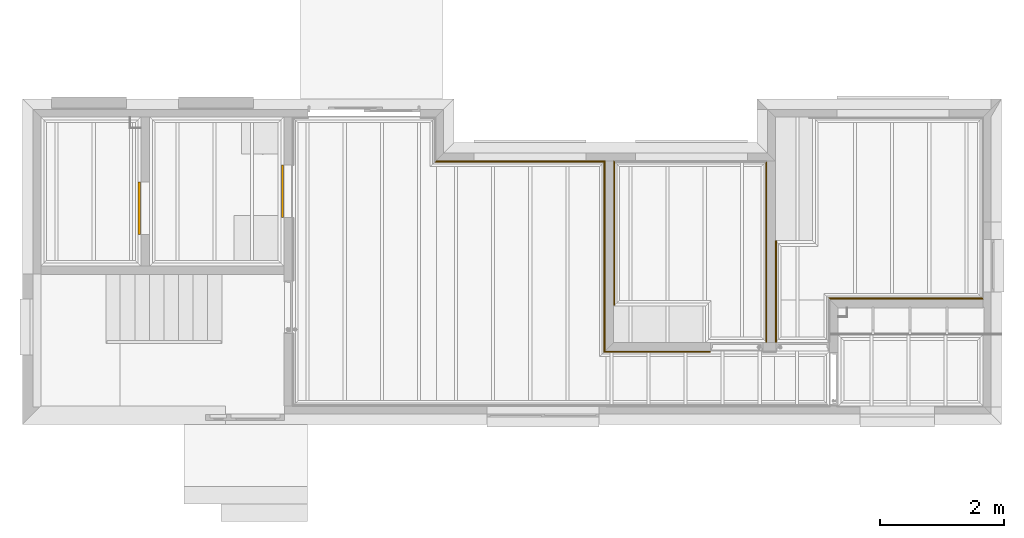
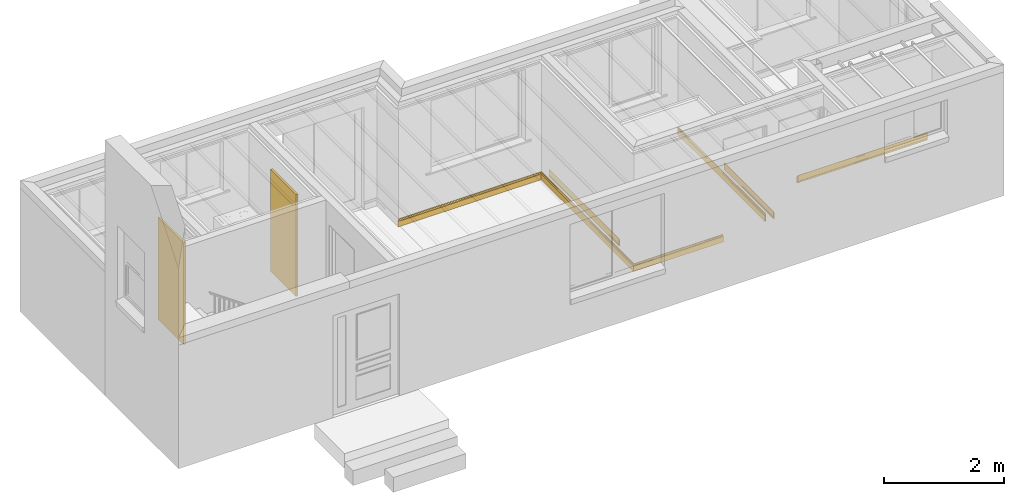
# One storey, part 4 of 15: 7 coverings, 2 doors.
"""IFC2X3 building model written with IfcOpenShell, lengths in millimetres."""

from ifc_helpers import new_model, entity, si_unit, converted_unit, money_unit, direction, frame, origin_with_axes, place, context, subcontext, project, spatial, faceted_brep, source, transform, mapped, material, material_list, type_object, element, save


model = new_model("IFC2X3")

# Units and contexts
model_context = context("Model", 3, precision=1e-05, world=origin_with_axes(), true_north=direction((0.0, 1.0)))
body_context = subcontext(model_context, "Body", "Model", "MODEL_VIEW")
ifc_project = project(units=[si_unit("LENGTHUNIT", "METRE", prefix="MILLI"), si_unit("AREAUNIT", "SQUARE_METRE"), si_unit("VOLUMEUNIT", "CUBIC_METRE"), converted_unit("PLANEANGLEUNIT", "DEGREE", entity("IfcPlaneAngleMeasure", 0.0174532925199), si_unit("PLANEANGLEUNIT", "RADIAN"), dimensions=[0, 0, 0, 0, 0, 0, 0]), si_unit("SOLIDANGLEUNIT", "STERADIAN"), money_unit("AUD"), si_unit("TIMEUNIT", "SECOND"), si_unit("MASSUNIT", "GRAM"), si_unit("THERMODYNAMICTEMPERATUREUNIT", "DEGREE_CELSIUS"), si_unit("LUMINOUSINTENSITYUNIT", "LUMEN")], contexts=[model_context])

# Site, building, storey
site_placement = place(None, origin_with_axes())
site = spatial("IfcSite", under=ifc_project, at=site_placement, Name="Lot 1. East Hills", CompositionType="ELEMENT")
building_placement = place(site_placement, origin_with_axes())
building = spatial("IfcBuilding", under=site, at=building_placement, Name="Proposed Units 7 & 8", CompositionType="ELEMENT")
storey_placement = place(building_placement, frame((0.0, 0.0, 3202.0), z_axis=(0.0, 0.0, 1.0), x_axis=(1.0, 0.0, 0.0)))
storey = spatial("IfcBuildingStorey", under=building, at=storey_placement, Name="Ground", CompositionType="ELEMENT", Elevation=3202.0)

# Doors
ifc_material_1 = material(Name="Empty Fill")
ifc_material_list = material_list([ifc_material_1, ifc_material_1, ifc_material_1, ifc_material_1, ifc_material_1, ifc_material_1, ifc_material_1, ifc_material_1, ifc_material_1])
door_style_1 = type_object("IfcDoorStyle", Name="D1 Sliding Ext 11", ConstructionType="NOTDEFINED", OperationType="SLIDING_TO_LEFT", ParameterTakesPrecedence=False, Sizeable=False)
shared_shape_1 = source(origin_with_axes(), body_context, "Body", "Brep", [
    faceted_brep([(-425.0, 40.0, 0.0), (425.0, 40.0, 0.0), (425.0, 5.0, 0.0), (-425.0, 5.0, 0.0), (-425.0, 40.0, 2067.0), (425.0, 40.0, 2067.0), (425.0, 5.0, 2067.0), (-425.0, 5.0, 2067.0)], [[[0, 1, 2, 3]], [[0, 4, 5, 1]], [[1, 5, 6, 2]], [[3, 2, 6, 7]], [[4, 0, 3, 7]], [[5, 4, 7, 6]]]),
])
door_1_placement = place(storey_placement, frame((4225.0144277, 3342.99999352, 0.0), z_axis=(0.0, 0.0, 1.0), x_axis=(-7.51477654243e-06, 0.999999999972, 0.0)))
element("IfcDoor", 1, at=door_1_placement, inside=storey, type_object=door_style_1, material=ifc_material_list, Name="4 D1 Sliding Ext 11 0.85 x 2.067 x 1 Door", OverallHeight=2067.0, OverallWidth=850.0, context=body_context, shape_type="MappedRepresentation", body=[
    mapped(shared_shape_1, transform((425.0, 0.0, 0.0))),
])
door_style_2 = type_object("IfcDoorStyle", Name="D1 Sliding Ext 11", ConstructionType="NOTDEFINED", OperationType="SLIDING_TO_RIGHT", ParameterTakesPrecedence=False, Sizeable=False)
shared_shape_2 = source(origin_with_axes(), body_context, "Body", "Brep", [
    faceted_brep([(425.0, 45.0, 0.0), (425.0, 5.0, 0.0), (-425.0, 5.0, 0.0), (-425.0, 45.0, 0.0), (425.0, 45.0, 2067.0), (425.0, 5.0, 2067.0), (-425.0, 5.0, 2067.0), (-425.0, 45.0, 2067.0)], [[[0, 1, 2, 3]], [[4, 5, 1, 0]], [[1, 5, 6, 2]], [[3, 2, 6, 7]], [[0, 3, 7, 4]], [[7, 6, 5, 4]]]),
])
door_2_placement = place(storey_placement, frame((1915.0, 3068.12822008, 0.0), z_axis=(0.0, 0.0, 1.0), x_axis=(0.0, 1.0, 0.0)))
element("IfcDoor", 2, at=door_2_placement, inside=storey, type_object=door_style_2, material=ifc_material_list, Name="3 D1 Sliding Ext 11 0.85 x 2.067 x 1 Door", OverallHeight=2067.0, OverallWidth=850.0, context=body_context, shape_type="MappedRepresentation", body=[
    mapped(shared_shape_2, transform((425.0, 0.0, 0.0))),
])

# Coverings
ifc_material_2 = material(Name="50 %")
covering_type = type_object("IfcCoveringType", Name="Molding Straight 12", PredefinedType="NOTDEFINED")
shared_shape_3 = source(origin_with_axes(), body_context, "Body", "Brep", [
    faceted_brep([(2720.97014761, -19.0298507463, -150.0), (2720.97014761, -19.0298507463, -40.2985074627), (-19.0298507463, -19.0298507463, -40.2985074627), (-19.0298507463, -19.0298507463, -150.0), (2739.99999836, 0.0, -150.0), (2739.99999836, 0.0, -120.895522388), (2737.76119239, -2.23880597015, -118.656716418), (2737.76119239, -2.23880597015, -24.6268656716), (2739.99999836, 0.0, -22.3880597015), (2739.99999836, 0.0, 0.0), (2733.28358045, -6.71641791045, 0.0), (2731.04477448, -8.9552238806, -4.4776119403), (2730.80802769, -9.19197067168, -5.17383533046), (2730.76683928, -9.23315907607, -5.90805571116), (2730.92423203, -9.07576633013, -6.62638959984), (2731.26865508, -8.73134328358, -7.27611940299), (2731.82878532, -8.1712130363, -8.36014699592), (2732.05223717, -7.94776119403, -9.55970149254), (2731.75146155, -8.2485368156, -12.6066468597), (2730.6421092, -9.35788915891, -15.4603601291), (2728.80596851, -11.1940298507, -17.9104477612), (2724.37880085, -15.6211975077, -24.0923863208), (2722.0895506, -17.9104477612, -31.3432835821), (2722.07427768, -17.9257206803, -33.6342255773), (2722.69852028, -17.3014780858, -35.8385326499), (2723.91274409, -16.087254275, -37.7812907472), (2725.62059919, -14.3793991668, -39.3083399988), (2727.68656553, -12.3134328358, -40.2985074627), (-12.3134328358, -12.3134328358, -40.2985074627), (-14.3793991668, -14.3793991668, -39.3083399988), (-16.087254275, -16.087254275, -37.7812907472), (-17.3014780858, -17.3014780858, -35.8385326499), (-17.9257206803, -17.9257206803, -33.6342255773), (-17.9104477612, -17.9104477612, -31.3432835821), (-15.6211975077, -15.6211975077, -24.0923863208), (-11.1940298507, -11.1940298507, -17.9104477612), (-9.35788915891, -9.35788915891, -15.4603601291), (-8.2485368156, -8.2485368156, -12.6066468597), (-7.94776119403, -7.94776119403, -9.55970149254), (-8.17121303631, -8.1712130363, -8.36014699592), (-8.73134328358, -8.73134328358, -7.27611940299), (-9.07576633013, -9.07576633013, -6.62638959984), (-9.23315907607, -9.23315907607, -5.90805571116), (-9.19197067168, -9.19197067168, -5.17383533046), (-8.9552238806, -8.9552238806, -4.4776119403), (-6.71641791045, -6.71641791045, 0.0), (0.0, 0.0, 0.0), (0.0, 0.0, -22.3880597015), (-2.23880597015, -2.23880597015, -24.6268656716), (-2.23880597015, -2.23880597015, -118.656716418), (0.0, 0.0, -120.895522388), (0.0, 0.0, -150.0)], [[[0, 1, 2, 3]], [[0, 4, 5, 6, 7, 8, 9, 10, 11, 12, 13, 14, 15, 16, 17, 18, 19, 20, 21, 22, 23, 24, 25, 26, 27, 1]], [[1, 27, 28, 2]], [[3, 2, 28, 29, 30, 31, 32, 33, 34, 35, 36, 37, 38, 39, 40, 41, 42, 43, 44, 45, 46, 47, 48, 49, 50, 51]], [[4, 0, 3, 51]], [[5, 4, 51, 50]], [[6, 5, 50, 49]], [[7, 6, 49, 48]], [[8, 7, 48, 47]], [[9, 8, 47, 46]], [[10, 9, 46, 45]], [[11, 10, 45, 44]], [[12, 11, 44, 43]], [[13, 12, 43, 42]], [[14, 13, 42, 41]], [[15, 14, 41, 40]], [[16, 15, 40, 39]], [[17, 16, 39, 38]], [[18, 17, 38, 37]], [[19, 18, 37, 36]], [[20, 19, 36, 35]], [[21, 20, 35, 34]], [[22, 21, 34, 33]], [[23, 22, 33, 32]], [[24, 23, 32, 31]], [[25, 24, 31, 30]], [[26, 25, 30, 29]], [[27, 26, 29, 28]]]),
])
covering_1_placement = place(storey_placement, frame((6680.00000119, 4258.00000119, 150.0), z_axis=(0.0, 0.0, 1.0), x_axis=(1.0, 0.0, 0.0)))
element("IfcCovering", 3, at=covering_1_placement, inside=storey, type_object=covering_type, material=ifc_material_2, Name="Sk_01 - Molding Straight 12 - object -", PredefinedType="NOTDEFINED", context=body_context, shape_type="MappedRepresentation", body=[
    mapped(shared_shape_3, transform((0.0, 0.0, 0.0))),
])
shared_shape_4 = source(origin_with_axes(), body_context, "Body", "Brep", [
    faceted_brep([(3094.02985149, -19.0298507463, -150.0), (3094.02985149, -19.0298507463, -40.2985074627), (19.0298507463, -19.0298507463, -40.2985074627), (19.0298507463, -19.0298507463, -150.0), (3075.00000075, 0.0, -150.0), (3075.00000075, 0.0, -120.895522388), (3077.23880672, -2.23880597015, -118.656716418), (3077.23880672, -2.23880597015, -24.6268656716), (3075.00000075, 0.0, -22.3880597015), (3075.00000075, 0.0, 0.0), (3081.71641866, -6.71641791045, 0.0), (3083.95522463, -8.9552238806, -4.4776119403), (3084.19197142, -9.19197067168, -5.17383533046), (3084.23315982, -9.23315907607, -5.90805571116), (3084.07576708, -9.07576633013, -6.62638959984), (3083.73134403, -8.73134328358, -7.27611940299), (3083.17121378, -8.1712130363, -8.36014699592), (3082.94776194, -7.94776119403, -9.55970149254), (3083.24853756, -8.2485368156, -12.6066468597), (3084.3578899, -9.35788915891, -15.4603601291), (3086.1940306, -11.1940298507, -17.9104477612), (3090.62119825, -15.6211975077, -24.0923863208), (3092.91044851, -17.9104477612, -31.3432835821), (3092.92572143, -17.9257206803, -33.6342255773), (3092.30147883, -17.3014780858, -35.8385326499), (3091.08725502, -16.087254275, -37.7812907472), (3089.37939991, -14.3793991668, -39.3083399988), (3087.31343358, -12.3134328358, -40.2985074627), (12.3134328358, -12.3134328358, -40.2985074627), (14.3793991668, -14.3793991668, -39.3083399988), (16.087254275, -16.087254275, -37.7812907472), (17.3014780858, -17.3014780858, -35.8385326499), (17.9257206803, -17.9257206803, -33.6342255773), (17.9104477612, -17.9104477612, -31.3432835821), (15.6211975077, -15.6211975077, -24.0923863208), (11.1940298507, -11.1940298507, -17.9104477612), (9.35788915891, -9.35788915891, -15.4603601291), (8.2485368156, -8.2485368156, -12.6066468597), (7.94776119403, -7.94776119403, -9.55970149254), (8.1712130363, -8.1712130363, -8.36014699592), (8.73134328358, -8.73134328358, -7.27611940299), (9.07576633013, -9.07576633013, -6.62638959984), (9.23315907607, -9.23315907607, -5.90805571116), (9.19197067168, -9.19197067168, -5.17383533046), (8.9552238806, -8.9552238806, -4.4776119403), (6.71641791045, -6.71641791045, 0.0), (0.0, 0.0, 0.0), (0.0, 0.0, -22.3880597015), (2.23880597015, -2.23880597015, -24.6268656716), (2.23880597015, -2.23880597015, -118.656716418), (0.0, 0.0, -120.895522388), (0.0, 0.0, -150.0)], [[[0, 1, 2, 3]], [[0, 4, 5, 6, 7, 8, 9, 10, 11, 12, 13, 14, 15, 16, 17, 18, 19, 20, 21, 22, 23, 24, 25, 26, 27, 1]], [[1, 27, 28, 2]], [[3, 2, 28, 29, 30, 31, 32, 33, 34, 35, 36, 37, 38, 39, 40, 41, 42, 43, 44, 45, 46, 47, 48, 49, 50, 51]], [[4, 0, 3, 51]], [[5, 4, 51, 50]], [[6, 5, 50, 49]], [[7, 6, 49, 48]], [[8, 7, 48, 47]], [[9, 8, 47, 46]], [[10, 9, 46, 45]], [[11, 10, 45, 44]], [[12, 11, 44, 43]], [[13, 12, 43, 42]], [[14, 13, 42, 41]], [[15, 14, 41, 40]], [[16, 15, 40, 39]], [[17, 16, 39, 38]], [[18, 17, 38, 37]], [[19, 18, 37, 36]], [[20, 19, 36, 35]], [[21, 20, 35, 34]], [[22, 21, 34, 33]], [[23, 22, 33, 32]], [[24, 23, 32, 31]], [[25, 24, 31, 30]], [[26, 25, 30, 29]], [[27, 26, 29, 28]]]),
])
covering_2_placement = place(storey_placement, frame((9419.99999955, 4258.00000119, 150.0), z_axis=(0.0, 0.0, 1.0), x_axis=(0.0, -1.0, 0.0)))
element("IfcCovering", 4, at=covering_2_placement, inside=storey, type_object=covering_type, material=ifc_material_2, Name="Sk_01 - Molding Straight 12 - object -", PredefinedType="NOTDEFINED", context=body_context, shape_type="MappedRepresentation", body=[
    mapped(shared_shape_4, transform((0.0, 0.0, 0.0))),
])
shared_shape_5 = source(origin_with_axes(), body_context, "Body", "Brep", [
    faceted_brep([(1702.50000052, -19.0298507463, -150.0), (1702.50000052, -19.0298507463, -40.2985074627), (-19.0298507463, -19.0298507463, -40.2985074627), (-19.0298507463, -19.0298507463, -150.0), (1702.50000052, 0.0, -150.0), (1702.50000052, 0.0, -120.895522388), (1702.50000052, -2.23880597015, -118.656716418), (1702.50000052, -2.23880597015, -24.6268656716), (1702.50000052, 0.0, -22.3880597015), (1702.50000052, 0.0, 0.0), (1702.50000052, -6.71641791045, 0.0), (1702.50000052, -8.9552238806, -4.4776119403), (1702.50000052, -9.19197067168, -5.17383533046), (1702.50000052, -9.23315907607, -5.90805571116), (1702.50000052, -9.07576633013, -6.62638959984), (1702.50000052, -8.73134328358, -7.27611940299), (1702.50000052, -8.1712130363, -8.36014699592), (1702.50000052, -7.94776119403, -9.55970149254), (1702.50000052, -8.2485368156, -12.6066468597), (1702.50000052, -9.35788915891, -15.4603601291), (1702.50000052, -11.1940298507, -17.9104477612), (1702.50000052, -15.6211975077, -24.0923863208), (1702.50000052, -17.9104477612, -31.3432835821), (1702.50000052, -17.9257206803, -33.6342255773), (1702.50000052, -17.3014780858, -35.8385326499), (1702.50000052, -16.087254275, -37.7812907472), (1702.50000052, -14.3793991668, -39.3083399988), (1702.50000052, -12.3134328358, -40.2985074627), (-12.3134328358, -12.3134328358, -40.2985074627), (-14.3793991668, -14.3793991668, -39.3083399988), (-16.087254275, -16.087254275, -37.7812907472), (-17.3014780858, -17.3014780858, -35.8385326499), (-17.9257206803, -17.9257206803, -33.6342255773), (-17.9104477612, -17.9104477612, -31.3432835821), (-15.6211975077, -15.6211975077, -24.0923863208), (-11.1940298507, -11.1940298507, -17.9104477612), (-9.35788915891, -9.35788915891, -15.4603601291), (-8.2485368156, -8.2485368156, -12.6066468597), (-7.94776119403, -7.94776119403, -9.55970149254), (-8.1712130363, -8.1712130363, -8.36014699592), (-8.73134328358, -8.73134328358, -7.27611940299), (-9.07576633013, -9.07576633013, -6.62638959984), (-9.23315907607, -9.23315907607, -5.90805571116), (-9.19197067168, -9.19197067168, -5.17383533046), (-8.9552238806, -8.9552238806, -4.4776119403), (-6.71641791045, -6.71641791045, 0.0), (0.0, 0.0, 0.0), (0.0, 0.0, -22.3880597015), (-2.23880597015, -2.23880597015, -24.6268656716), (-2.23880597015, -2.23880597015, -118.656716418), (0.0, 0.0, -120.895522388), (0.0, 0.0, -150.0)], [[[0, 1, 2, 3]], [[0, 4, 5, 6, 7, 8, 9, 10, 11, 12, 13, 14, 15, 16, 17, 18, 19, 20, 21, 22, 23, 24, 25, 26, 27, 1]], [[1, 27, 28, 2]], [[3, 2, 28, 29, 30, 31, 32, 33, 34, 35, 36, 37, 38, 39, 40, 41, 42, 43, 44, 45, 46, 47, 48, 49, 50, 51]], [[4, 0, 3, 51]], [[5, 4, 51, 50]], [[6, 5, 50, 49]], [[7, 6, 49, 48]], [[8, 7, 48, 47]], [[9, 8, 47, 46]], [[10, 9, 46, 45]], [[11, 10, 45, 44]], [[12, 11, 44, 43]], [[13, 12, 43, 42]], [[14, 13, 42, 41]], [[15, 14, 41, 40]], [[16, 15, 40, 39]], [[17, 16, 39, 38]], [[18, 17, 38, 37]], [[19, 18, 37, 36]], [[20, 19, 36, 35]], [[21, 20, 35, 34]], [[22, 21, 34, 33]], [[23, 22, 33, 32]], [[24, 23, 32, 31]], [[25, 24, 31, 30]], [[26, 25, 30, 29]], [[27, 26, 29, 28]]]),
])
covering_3_placement = place(storey_placement, frame((9419.99999955, 1183.00000045, 150.0), z_axis=(0.0, 0.0, 1.0), x_axis=(1.0, 0.0, 0.0)))
element("IfcCovering", 5, at=covering_3_placement, inside=storey, type_object=covering_type, material=ifc_material_2, Name="Sk_01 - Molding Straight 12 - object -", PredefinedType="NOTDEFINED", context=body_context, shape_type="MappedRepresentation", body=[
    mapped(shared_shape_5, transform((0.0, 0.0, 0.0))),
])
shared_shape_6 = source(origin_with_axes(), body_context, "Body", "Brep", [
    faceted_brep([(2935.010151, -19.0298507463, -150.0), (2935.010151, -19.0298507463, -40.2985074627), (18.9658913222, -19.0298507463, -40.2985074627), (18.9658913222, -19.0298507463, -150.0), (2934.99965468, 0.0, -150.0), (2934.99965468, 0.0, -120.895522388), (2935.00088954, -2.23880597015, -118.656716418), (2935.00088954, -2.23880597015, -24.6268656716), (2934.99965468, 0.0, -22.3880597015), (2934.99965468, 0.0, 0.0), (2935.00335926, -6.71641791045, 0.0), (2935.00459412, -8.9552238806, -4.4776119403), (2935.00472471, -9.19197067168, -5.17383533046), (2935.00474743, -9.23315907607, -5.90805571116), (2935.00466061, -9.07576633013, -6.62638959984), (2935.00447064, -8.73134328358, -7.27611940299), (2935.00416169, -8.1712130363, -8.36014699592), (2935.00403844, -7.94776119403, -9.55970149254), (2935.00420434, -8.2485368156, -12.6066468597), (2935.00481622, -9.35788915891, -15.4603601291), (2935.00582899, -11.1940298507, -17.9104477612), (2935.00827088, -15.6211975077, -24.0923863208), (2935.00953357, -17.9104477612, -31.3432835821), (2935.00954199, -17.9257206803, -33.6342255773), (2935.00919768, -17.3014780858, -35.8385326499), (2935.00852795, -16.087254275, -37.7812907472), (2935.00758594, -14.3793991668, -39.3083399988), (2935.00644642, -12.3134328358, -40.2985074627), (12.2720473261, -12.3134328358, -40.2985074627), (14.3310699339, -14.3793991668, -39.3083399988), (16.0331849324, -16.087254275, -37.7812907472), (17.2433277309, -17.3014780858, -35.8385326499), (17.865472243, -17.9257206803, -33.6342255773), (17.8502506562, -17.9104477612, -31.3432835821), (15.5686945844, -15.6211975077, -24.0923863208), (11.1564066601, -11.1940298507, -17.9104477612), (9.32643724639, -9.35788915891, -15.4603601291), (8.22081344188, -8.2485368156, -12.6066468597), (7.92104872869, -7.94776119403, -9.55970149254), (8.1437495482, -8.1712130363, -8.36014699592), (8.7019971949, -8.73134328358, -7.27611940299), (9.04526263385, -9.07576633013, -6.62638959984), (9.20212638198, -9.23315907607, -5.90805571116), (9.16107641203, -9.19197067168, -5.17383533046), (8.9251253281, -8.9552238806, -4.4776119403), (6.69384399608, -6.71641791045, 0.0), (0.0, 0.0, 0.0), (0.0, 0.0, -22.3880597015), (2.23128133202, -2.23880597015, -24.6268656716), (2.23128133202, -2.23880597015, -118.656716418), (0.0, 0.0, -120.895522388), (0.0, 0.0, -150.0)], [[[0, 1, 2, 3]], [[0, 4, 5, 6, 7, 8, 9, 10, 11, 12, 13, 14, 15, 16, 17, 18, 19, 20, 21, 22, 23, 24, 25, 26, 27, 1]], [[1, 27, 28, 2]], [[3, 2, 28, 29, 30, 31, 32, 33, 34, 35, 36, 37, 38, 39, 40, 41, 42, 43, 44, 45, 46, 47, 48, 49, 50, 51]], [[4, 0, 3, 51]], [[5, 4, 51, 50]], [[6, 5, 50, 49]], [[7, 6, 49, 48]], [[8, 7, 48, 47]], [[9, 8, 47, 46]], [[10, 9, 46, 45]], [[11, 10, 45, 44]], [[12, 11, 44, 43]], [[13, 12, 43, 42]], [[14, 13, 42, 41]], [[15, 14, 41, 40]], [[16, 15, 40, 39]], [[17, 16, 39, 38]], [[18, 17, 38, 37]], [[19, 18, 37, 36]], [[20, 19, 36, 35]], [[21, 20, 35, 34]], [[22, 21, 34, 33]], [[23, 22, 33, 32]], [[24, 23, 32, 31]], [[25, 24, 31, 30]], [[26, 25, 30, 29]], [[27, 26, 29, 28]]]),
])
covering_4_placement = place(storey_placement, frame((12035.0838693, 4258.00000119, 150.0), z_axis=(0.0, 0.0, 1.0), x_axis=(0.0, -1.0, 0.0)))
element("IfcCovering", 6, at=covering_4_placement, inside=storey, type_object=covering_type, material=ifc_material_2, Name="Sk_01 - Molding Straight 12 - object -", PredefinedType="NOTDEFINED", context=body_context, shape_type="MappedRepresentation", body=[
    mapped(shared_shape_6, transform((0.0, 0.0, 0.0))),
])
shared_shape_7 = source(origin_with_axes(), body_context, "Body", "Brep", [
    faceted_brep([(2315.31316554, -19.0298507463, -150.0), (2315.31316554, -19.0298507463, -40.2985074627), (0.0, -19.0298507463, -40.2985074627), (0.0, -19.0298507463, -150.0), (2334.34301628, 0.0, -150.0), (2334.34301628, 0.0, -120.895522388), (2332.10421031, -2.23880597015, -118.656716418), (2332.10421031, -2.23880597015, -24.6268656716), (2334.34301628, 0.0, -22.3880597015), (2334.34301628, 0.0, 0.0), (2327.62659837, -6.71641791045, 0.0), (2325.3877924, -8.9552238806, -4.4776119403), (2325.15104561, -9.19197067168, -5.17383533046), (2325.10985721, -9.23315907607, -5.90805571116), (2325.26724995, -9.07576633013, -6.62638959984), (2325.611673, -8.73134328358, -7.27611940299), (2326.17180325, -8.1712130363, -8.36014699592), (2326.39525509, -7.94776119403, -9.55970149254), (2326.09447947, -8.2485368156, -12.6066468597), (2324.98512712, -9.35788915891, -15.4603601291), (2323.14898643, -11.1940298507, -17.9104477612), (2318.72181877, -15.6211975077, -24.0923863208), (2316.43256852, -17.9104477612, -31.3432835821), (2316.4172956, -17.9257206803, -33.6342255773), (2317.0415382, -17.3014780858, -35.8385326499), (2318.25576201, -16.087254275, -37.7812907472), (2319.96361712, -14.3793991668, -39.3083399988), (2322.02958345, -12.3134328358, -40.2985074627), (0.0, -12.3134328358, -40.2985074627), (0.0, -14.3793991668, -39.3083399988), (0.0, -16.087254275, -37.7812907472), (0.0, -17.3014780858, -35.8385326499), (0.0, -17.9257206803, -33.6342255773), (0.0, -17.9104477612, -31.3432835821), (0.0, -15.6211975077, -24.0923863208), (0.0, -11.1940298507, -17.9104477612), (0.0, -9.35788915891, -15.4603601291), (0.0, -8.2485368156, -12.6066468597), (0.0, -7.94776119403, -9.55970149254), (0.0, -8.1712130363, -8.36014699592), (0.0, -8.73134328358, -7.27611940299), (0.0, -9.07576633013, -6.62638959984), (0.0, -9.23315907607, -5.90805571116), (0.0, -9.19197067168, -5.17383533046), (0.0, -8.9552238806, -4.4776119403), (0.0, -6.71641791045, 0.0), (0.0, 0.0, 0.0), (0.0, 0.0, -22.3880597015), (0.0, -2.23880597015, -24.6268656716), (0.0, -2.23880597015, -118.656716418), (0.0, 0.0, -120.895522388), (0.0, 0.0, -150.0)], [[[0, 1, 2, 3]], [[0, 4, 5, 6, 7, 8, 9, 10, 11, 12, 13, 14, 15, 16, 17, 18, 19, 20, 21, 22, 23, 24, 25, 26, 27, 1]], [[1, 27, 28, 2]], [[3, 2, 28, 29, 30, 31, 32, 33, 34, 35, 36, 37, 38, 39, 40, 41, 42, 43, 44, 45, 46, 47, 48, 49, 50, 51]], [[4, 0, 3, 51]], [[5, 4, 51, 50]], [[6, 5, 50, 49]], [[7, 6, 49, 48]], [[8, 7, 48, 47]], [[9, 8, 47, 46]], [[10, 9, 46, 45]], [[11, 10, 45, 44]], [[12, 11, 44, 43]], [[13, 12, 43, 42]], [[14, 13, 42, 41]], [[15, 14, 41, 40]], [[16, 15, 40, 39]], [[17, 16, 39, 38]], [[18, 17, 38, 37]], [[19, 18, 37, 36]], [[20, 19, 36, 35]], [[21, 20, 35, 34]], [[22, 21, 34, 33]], [[23, 22, 33, 32]], [[24, 23, 32, 31]], [[25, 24, 31, 30]], [[26, 25, 30, 29]], [[27, 26, 29, 28]]]),
])
covering_5_placement = place(storey_placement, frame((9559.99999896, 1923.65698491, 150.0), z_axis=(0.0, 0.0, 1.0), x_axis=(0.0, 1.0, 0.0)))
element("IfcCovering", 7, at=covering_5_placement, inside=storey, type_object=covering_type, material=ifc_material_2, Name="Sk_01 - Molding Straight 12 - object -", PredefinedType="NOTDEFINED", context=body_context, shape_type="MappedRepresentation", body=[
    mapped(shared_shape_7, transform((0.0, 0.0, 0.0))),
])
shared_shape_8 = source(origin_with_axes(), body_context, "Body", "Brep", [
    faceted_brep([(1645.00000134, -19.0298507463, -150.0), (1645.00000134, -19.0298507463, -40.2985074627), (0.0, -19.0298507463, -40.2985074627), (0.0, -19.0298507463, -150.0), (1645.00000134, 0.0, -150.0), (1645.00000134, 0.0, -120.895522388), (1645.00000134, -2.23880597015, -118.656716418), (1645.00000134, -2.23880597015, -24.6268656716), (1645.00000134, 0.0, -22.3880597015), (1645.00000134, 0.0, 0.0), (1645.00000134, -6.71641791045, 0.0), (1645.00000134, -8.9552238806, -4.4776119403), (1645.00000134, -9.19197067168, -5.17383533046), (1645.00000134, -9.23315907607, -5.90805571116), (1645.00000134, -9.07576633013, -6.62638959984), (1645.00000134, -8.73134328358, -7.27611940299), (1645.00000134, -8.1712130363, -8.36014699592), (1645.00000134, -7.94776119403, -9.55970149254), (1645.00000134, -8.2485368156, -12.6066468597), (1645.00000134, -9.35788915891, -15.4603601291), (1645.00000134, -11.1940298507, -17.9104477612), (1645.00000134, -15.6211975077, -24.0923863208), (1645.00000134, -17.9104477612, -31.3432835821), (1645.00000134, -17.9257206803, -33.6342255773), (1645.00000134, -17.3014780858, -35.8385326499), (1645.00000134, -16.087254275, -37.7812907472), (1645.00000134, -14.3793991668, -39.3083399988), (1645.00000134, -12.3134328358, -40.2985074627), (0.0, -12.3134328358, -40.2985074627), (0.0, -14.3793991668, -39.3083399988), (0.0, -16.087254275, -37.7812907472), (0.0, -17.3014780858, -35.8385326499), (0.0, -17.9257206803, -33.6342255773), (0.0, -17.9104477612, -31.3432835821), (0.0, -15.6211975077, -24.0923863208), (0.0, -11.1940298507, -17.9104477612), (0.0, -9.35788915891, -15.4603601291), (0.0, -8.2485368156, -12.6066468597), (0.0, -7.94776119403, -9.55970149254), (0.0, -8.1712130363, -8.36014699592), (0.0, -8.73134328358, -7.27611940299), (0.0, -9.07576633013, -6.62638959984), (0.0, -9.23315907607, -5.90805571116), (0.0, -9.19197067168, -5.17383533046), (0.0, -8.9552238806, -4.4776119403), (0.0, -6.71641791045, 0.0), (0.0, 0.0, 0.0), (0.0, 0.0, -22.3880597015), (0.0, -2.23880597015, -24.6268656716), (0.0, -2.23880597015, -118.656716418), (0.0, 0.0, -120.895522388), (0.0, 0.0, -150.0)], [[[0, 1, 2, 3]], [[0, 4, 5, 6, 7, 8, 9, 10, 11, 12, 13, 14, 15, 16, 17, 18, 19, 20, 21, 22, 23, 24, 25, 26, 27, 1]], [[1, 27, 28, 2]], [[3, 2, 28, 29, 30, 31, 32, 33, 34, 35, 36, 37, 38, 39, 40, 41, 42, 43, 44, 45, 46, 47, 48, 49, 50, 51]], [[4, 0, 3, 51]], [[5, 4, 51, 50]], [[6, 5, 50, 49]], [[7, 6, 49, 48]], [[8, 7, 48, 47]], [[9, 8, 47, 46]], [[10, 9, 46, 45]], [[11, 10, 45, 44]], [[12, 11, 44, 43]], [[13, 12, 43, 42]], [[14, 13, 42, 41]], [[15, 14, 41, 40]], [[16, 15, 40, 39]], [[17, 16, 39, 38]], [[18, 17, 38, 37]], [[19, 18, 37, 36]], [[20, 19, 36, 35]], [[21, 20, 35, 34]], [[22, 21, 34, 33]], [[23, 22, 33, 32]], [[24, 23, 32, 31]], [[25, 24, 31, 30]], [[26, 25, 30, 29]], [[27, 26, 29, 28]]]),
])
covering_6_placement = place(storey_placement, frame((12174.9999995, 1322.99999985, 150.0), z_axis=(0.0, 0.0, 1.0), x_axis=(0.0, 1.0, 0.0)))
element("IfcCovering", 8, at=covering_6_placement, inside=storey, type_object=covering_type, material=ifc_material_2, Name="Sk_01 - Molding Straight 12 - object -", PredefinedType="NOTDEFINED", context=body_context, shape_type="MappedRepresentation", body=[
    mapped(shared_shape_8, transform((0.0, 0.0, 0.0))),
])
shared_shape_9 = source(origin_with_axes(), body_context, "Body", "Brep", [
    faceted_brep([(2504.02985136, -19.0298507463, -150.0), (2504.02985136, -19.0298507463, -40.2985074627), (18.9658913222, -19.0298507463, -40.2985074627), (18.9658913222, -19.0298507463, -150.0), (2485.00000061, 0.0, -150.0), (2485.00000061, 0.0, -120.895522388), (2487.23880658, -2.23880597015, -118.656716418), (2487.23880658, -2.23880597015, -24.6268656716), (2485.00000061, 0.0, -22.3880597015), (2485.00000061, 0.0, 0.0), (2491.71641852, -6.71641791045, 0.0), (2493.95522449, -8.9552238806, -4.4776119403), (2494.19197128, -9.19197067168, -5.17383533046), (2494.23315969, -9.23315907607, -5.90805571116), (2494.07576694, -9.07576633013, -6.62638959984), (2493.73134389, -8.73134328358, -7.27611940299), (2493.17121365, -8.1712130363, -8.36014699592), (2492.9477618, -7.94776119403, -9.55970149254), (2493.24853742, -8.2485368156, -12.6066468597), (2494.35788977, -9.35788915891, -15.4603601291), (2496.19403046, -11.1940298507, -17.9104477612), (2500.62119812, -15.6211975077, -24.0923863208), (2502.91044837, -17.9104477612, -31.3432835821), (2502.92572129, -17.9257206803, -33.6342255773), (2502.30147869, -17.3014780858, -35.8385326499), (2501.08725488, -16.087254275, -37.7812907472), (2499.37939978, -14.3793991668, -39.3083399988), (2497.31343344, -12.3134328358, -40.2985074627), (12.2720473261, -12.3134328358, -40.2985074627), (14.3310699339, -14.3793991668, -39.3083399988), (16.0331849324, -16.087254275, -37.7812907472), (17.2433277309, -17.3014780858, -35.8385326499), (17.865472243, -17.9257206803, -33.6342255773), (17.8502506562, -17.9104477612, -31.3432835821), (15.5686945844, -15.6211975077, -24.0923863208), (11.1564066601, -11.1940298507, -17.9104477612), (9.32643724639, -9.35788915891, -15.4603601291), (8.22081344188, -8.2485368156, -12.6066468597), (7.92104872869, -7.94776119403, -9.55970149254), (8.1437495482, -8.1712130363, -8.36014699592), (8.7019971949, -8.73134328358, -7.27611940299), (9.04526263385, -9.07576633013, -6.62638959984), (9.20212638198, -9.23315907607, -5.90805571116), (9.16107641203, -9.19197067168, -5.17383533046), (8.9251253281, -8.9552238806, -4.4776119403), (6.69384399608, -6.71641791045, 0.0), (0.0, 0.0, 0.0), (0.0, 0.0, -22.3880597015), (2.23128133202, -2.23880597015, -24.6268656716), (2.23128133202, -2.23880597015, -118.656716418), (0.0, 0.0, -120.895522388), (0.0, 0.0, -150.0)], [[[0, 1, 2, 3]], [[0, 4, 5, 6, 7, 8, 9, 10, 11, 12, 13, 14, 15, 16, 17, 18, 19, 20, 21, 22, 23, 24, 25, 26, 27, 1]], [[1, 27, 28, 2]], [[3, 2, 28, 29, 30, 31, 32, 33, 34, 35, 36, 37, 38, 39, 40, 41, 42, 43, 44, 45, 46, 47, 48, 49, 50, 51]], [[4, 0, 3, 51]], [[5, 4, 51, 50]], [[6, 5, 50, 49]], [[7, 6, 49, 48]], [[8, 7, 48, 47]], [[9, 8, 47, 46]], [[10, 9, 46, 45]], [[11, 10, 45, 44]], [[12, 11, 44, 43]], [[13, 12, 43, 42]], [[14, 13, 42, 41]], [[15, 14, 41, 40]], [[16, 15, 40, 39]], [[17, 16, 39, 38]], [[18, 17, 38, 37]], [[19, 18, 37, 36]], [[20, 19, 36, 35]], [[21, 20, 35, 34]], [[22, 21, 34, 33]], [[23, 22, 33, 32]], [[24, 23, 32, 31]], [[25, 24, 31, 30]], [[26, 25, 30, 29]], [[27, 26, 29, 28]]]),
])
covering_7_placement = place(storey_placement, frame((15535.0000012, 2022.99999873, 150.0), z_axis=(0.0, 0.0, 1.0), x_axis=(-1.0, 0.0, 0.0)))
element("IfcCovering", 9, at=covering_7_placement, inside=storey, type_object=covering_type, material=ifc_material_2, Name="Sk_01 - Molding Straight 12 - object -", PredefinedType="NOTDEFINED", context=body_context, shape_type="MappedRepresentation", body=[
    mapped(shared_shape_9, transform((0.0, 0.0, 0.0))),
])

save(model, "model.ifc")
